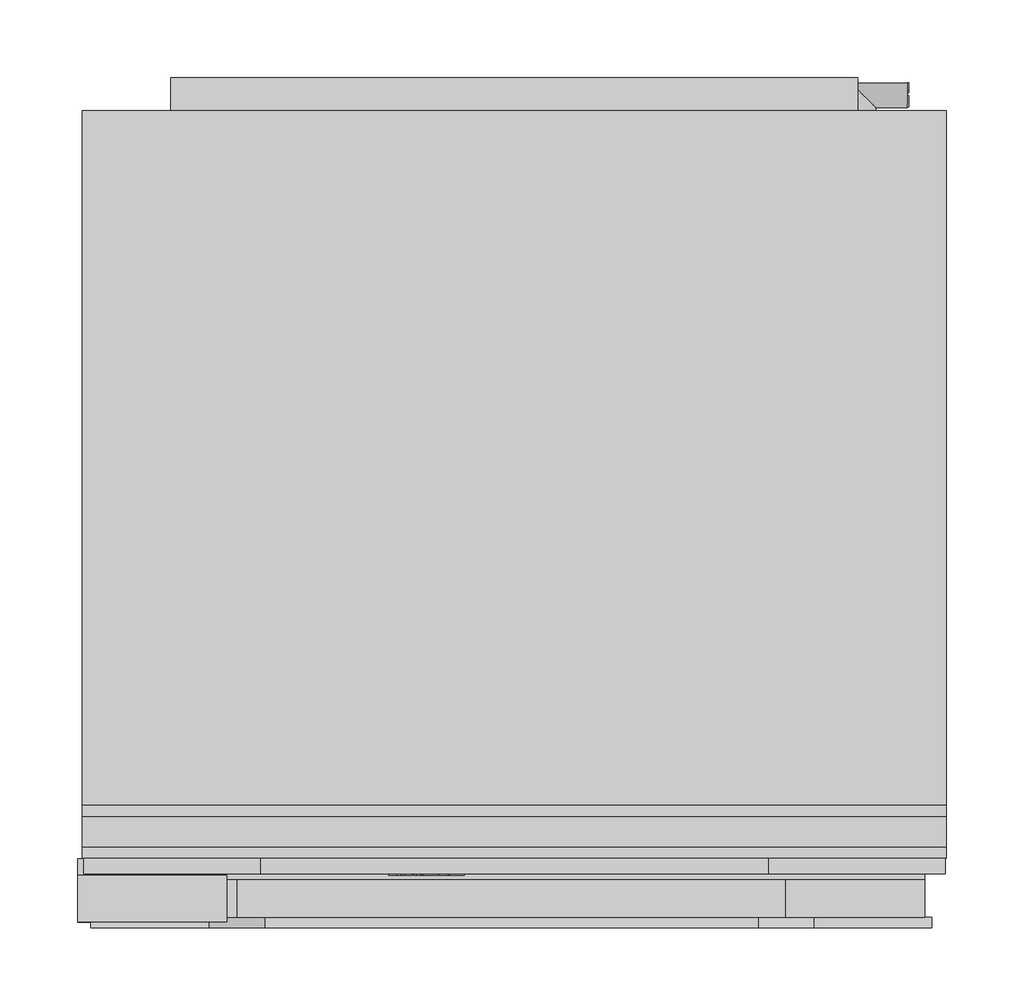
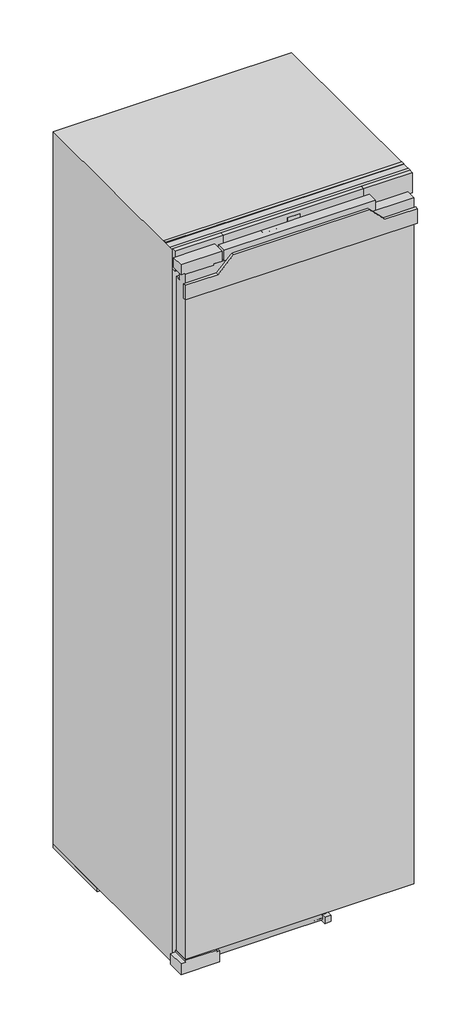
# Not in any storey: 1 proxy.
"""IFC4 building model written with IfcOpenShell, lengths in millimetres."""

from ifc_helpers import new_model, si_unit, origin, place, context, project, spatial, transform, mapped, element, save
from components import specialty_equipment_1cbd8173

model = new_model("IFC4")

# Units and contexts
model_context = context("Model", 3, world=origin())
ifc_project = project(units=[si_unit("LENGTHUNIT", "METRE", prefix="MILLI")], contexts=[model_context])

# Site, building
site = spatial("IfcSite", under=ifc_project)
building = spatial("IfcBuilding", under=site)

# Proxy
placement = place(None, origin())
specialty_equipment_shape = specialty_equipment_1cbd8173(model_context)
element("IfcBuildingElementProxy", 1, Name="12361980_EU1_FNS7740D : 37774040_EU1_12361980_FNS7740D", ObjectType="12361980_EU1_FNS7740D : 37774040_EU1_12361980_FNS7740D", at=placement, inside=building, context=model_context, shape_type="MappedRepresentation", body=[
    mapped(specialty_equipment_shape, transform((0.0, 0.0, 0.0), x_axis=(1.0, 0.0, 0.0), y_axis=(0.0, 1.0, 0.0), z_axis=(0.0, 0.0, 1.0))),
])

save(model, "model.ifc")
